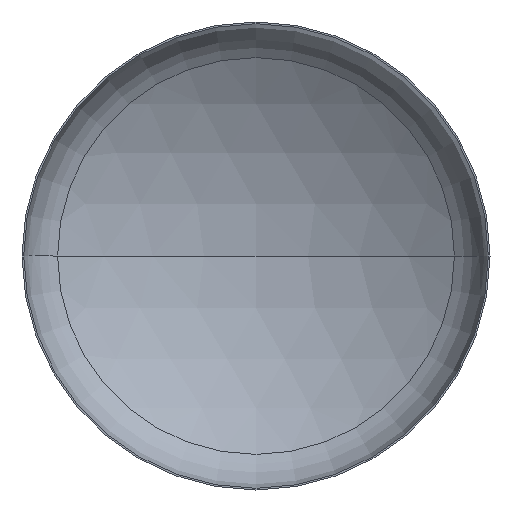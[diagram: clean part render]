
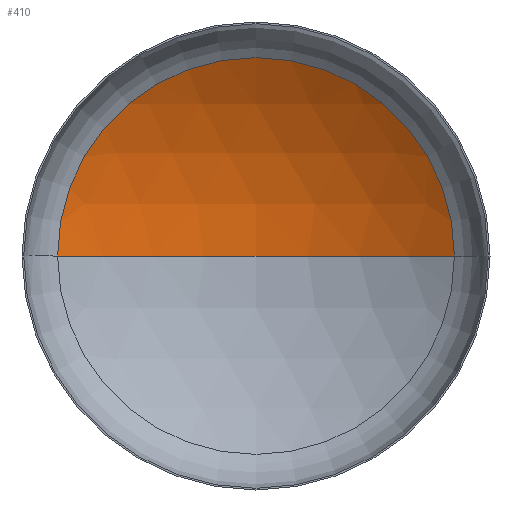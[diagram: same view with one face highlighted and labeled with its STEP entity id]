
A CAD part, front view. The second image highlights one B-rep face of the part: STEP entity #410.
In plain terms, the highlighted spherical face has radius 3040 mm.
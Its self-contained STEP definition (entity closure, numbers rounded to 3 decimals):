
#12 = EDGE_LOOP ( 'NONE', ( #45, #48, #74 ) ) ;
#13 = AXIS2_PLACEMENT_3D ( 'NONE', #87, #72, #139 ) ;
#40 = CARTESIAN_POINT ( 'NONE',  ( 0., 1003.072, 0. ) ) ;
#45 = ORIENTED_EDGE ( 'NONE', *, *, #399, .F. ) ;
#48 = ORIENTED_EDGE ( 'NONE', *, *, #375, .T. ) ;
#51 = SPHERICAL_SURFACE ( 'NONE', #285, 3040. ) ;
#72 = DIRECTION ( 'NONE',  ( 0., -1., 0. ) ) ;
#74 = ORIENTED_EDGE ( 'NONE', *, *, #349, .T. ) ;
#84 = VERTEX_POINT ( 'NONE', #248 ) ;
#87 = CARTESIAN_POINT ( 'NONE',  ( 0., 541.101, 0. ) ) ;
#119 = VERTEX_POINT ( 'NONE', #327 ) ;
#126 = CIRCLE ( 'NONE', #13, 1611.014 ) ;
#139 = DIRECTION ( 'NONE',  ( 1., 0., 0. ) ) ;
#157 = AXIS2_PLACEMENT_3D ( 'NONE', #371, #372, #226 ) ;
#172 = DIRECTION ( 'NONE',  ( 0., 0., 1. ) ) ;
#179 = CIRCLE ( 'NONE', #242, 3040. ) ;
#187 = FACE_OUTER_BOUND ( 'NONE', #12, .T. ) ;
#201 = DIRECTION ( 'NONE',  ( -1., 0., 0. ) ) ;
#226 = DIRECTION ( 'NONE',  ( -1., 0., 0. ) ) ;
#242 = AXIS2_PLACEMENT_3D ( 'NONE', #312, #172, #346 ) ;
#248 = CARTESIAN_POINT ( 'NONE',  ( -1611.014, 541.101, 0. ) ) ;
#285 = AXIS2_PLACEMENT_3D ( 'NONE', #395, #368, #201 ) ;
#312 = CARTESIAN_POINT ( 'NONE',  ( 0., -2036.928, 0. ) ) ;
#327 = CARTESIAN_POINT ( 'NONE',  ( 1611.014, 541.101, 0. ) ) ;
#331 = VERTEX_POINT ( 'NONE', #40 ) ;
#346 = DIRECTION ( 'NONE',  ( 1., 0., 0. ) ) ;
#349 = EDGE_CURVE ( 'NONE', #119, #84, #126, .T. ) ;
#368 = DIRECTION ( 'NONE',  ( 0., 0., -1. ) ) ;
#371 = CARTESIAN_POINT ( 'NONE',  ( 0., -2036.928, 0. ) ) ;
#372 = DIRECTION ( 'NONE',  ( 0., 0., -1. ) ) ;
#375 = EDGE_CURVE ( 'NONE', #331, #119, #376, .T. ) ;
#376 = CIRCLE ( 'NONE', #157, 3040. ) ;
#395 = CARTESIAN_POINT ( 'NONE',  ( 0., -2036.928, 0. ) ) ;
#399 = EDGE_CURVE ( 'NONE', #331, #84, #179, .T. ) ;
#410 = ADVANCED_FACE ( 'NONE', ( #187 ), #51, .F. ) ;
